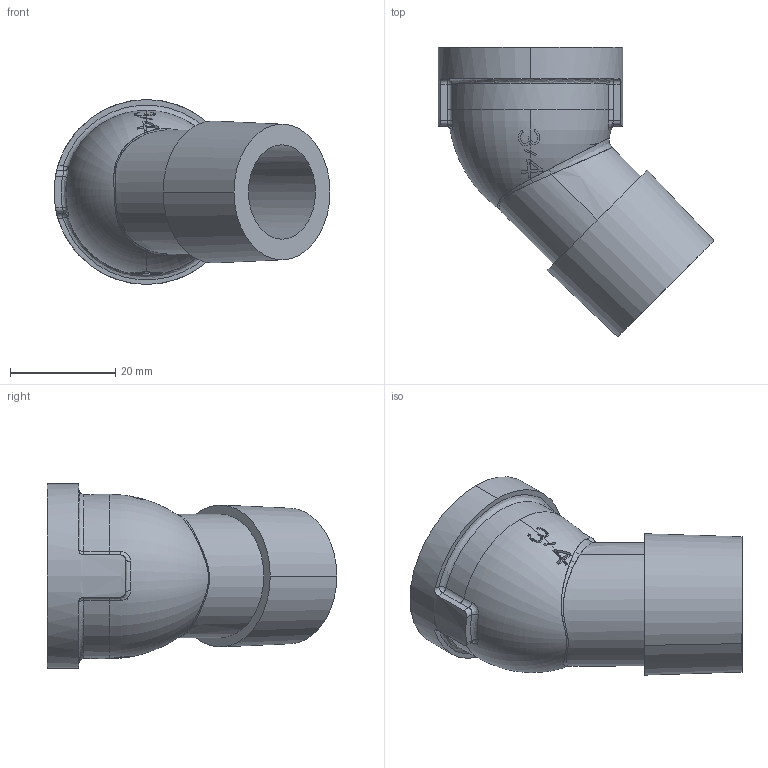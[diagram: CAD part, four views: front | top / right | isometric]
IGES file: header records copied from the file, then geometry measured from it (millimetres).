
Start section:  PTC IGES file: m156_3_4_elbow.igs
Global section: file name: m156_3_4_elbow.igs; native system: Creo Parametric by PTC Inc.; preprocessor: 2016130; author: LRoberts; organization: Unknown; date: 20200214.140341; units: millimetre
Bounding box: 52.53 x 55.14 x 35.2 mm (x, y, z)
Surface area: 9788 mm2 (no closed solid volume)
Topology: 0 solids, 0 shells, 206 faces, 1124 edges, 1124 vertices
Faces by surface type: bspline 155, revolution 51
